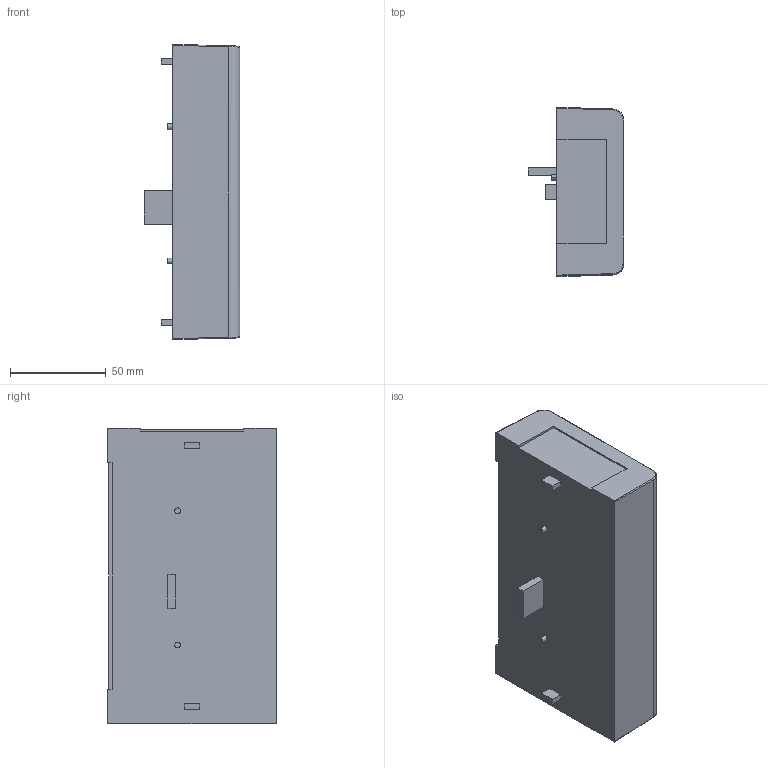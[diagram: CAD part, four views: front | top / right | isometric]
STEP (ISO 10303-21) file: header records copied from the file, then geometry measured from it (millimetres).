
FILE_DESCRIPTION (( 'STEP AP203' ), '1' );
FILE_NAME ('Comms.STEP', '2009-09-24T04:00:25', ( 'AuCom Electronics' ), ( '' ), 'SwSTEP 2.0', 'SolidWorks 2009', '' );
FILE_SCHEMA (( 'CONFIG_CONTROL_DESIGN' ));
Length unit declared in the file: millimetre
Products named in the file (1): Comms
Bounding box: 50 x 88 x 154 mm (x, y, z)
Volume: 457671.7 mm3; surface area: 44559.1 mm2
Topology: 1 solids, 1 shells, 89 faces, 220 edges, 144 vertices
Faces by surface type: plane 49, cylinder 36, bspline 4
Entity records: 3059 total; most frequent: CARTESIAN_POINT 850, DIRECTION 444, ORIENTED_EDGE 440, EDGE_CURVE 220, AXIS2_PLACEMENT_3D 150, VECTOR 144, LINE 144, VERTEX_POINT 144
